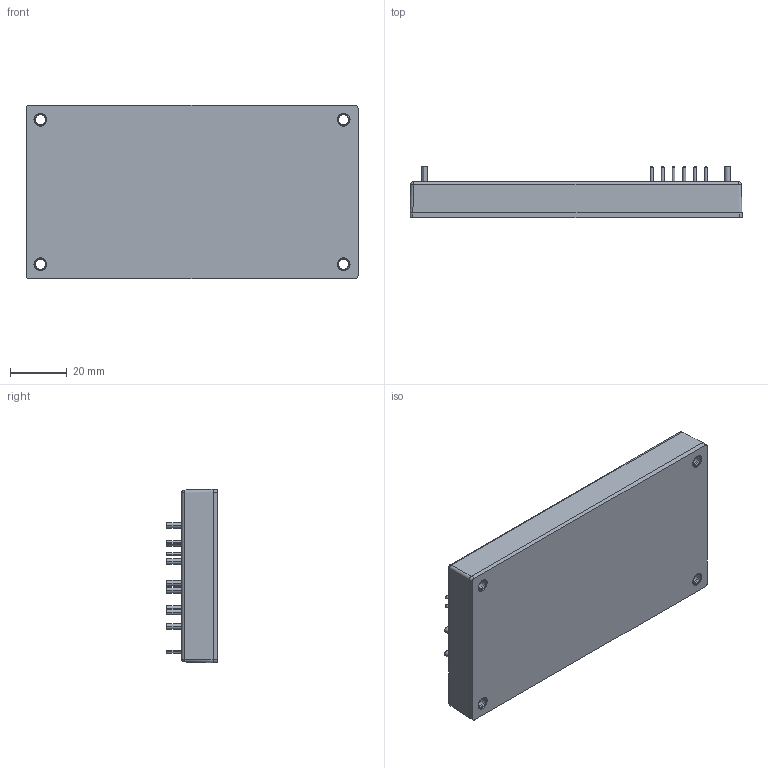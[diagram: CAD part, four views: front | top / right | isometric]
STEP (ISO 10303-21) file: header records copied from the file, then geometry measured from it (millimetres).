
FILE_DESCRIPTION (( 'STEP AP203' ), '1' );
FILE_NAME ('CFB600-300S-1121025.STEP', '2023-10-25T05:21:20', ( 'cincon' ), ( '' ), 'SwSTEP 2.0', 'SolidWorks 2020', '' );
FILE_SCHEMA (( 'CONFIG_CONTROL_DESIGN' ));
Length unit declared in the file: millimetre
Products named in the file (1): CFB600-300S-1121025
Bounding box: 116.8 x 18.2 x 61 mm (x, y, z)
Volume: 84424.6 mm3; surface area: 29529.8 mm2
Topology: 1 solids, 5 shells, 1123 faces, 2944 edges, 1940 vertices
Faces by surface type: plane 734, bspline 179, cylinder 150, cone 56, sphere 4
Entity records: 44261 total; most frequent: CARTESIAN_POINT 17647, ORIENTED_EDGE 5880, DIRECTION 4772, EDGE_CURVE 2940, VERTEX_POINT 1940, LINE 1890, VECTOR 1890, AXIS2_PLACEMENT_3D 1441
